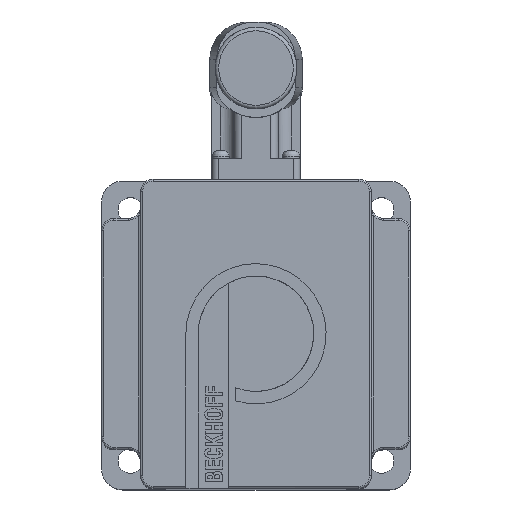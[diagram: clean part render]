
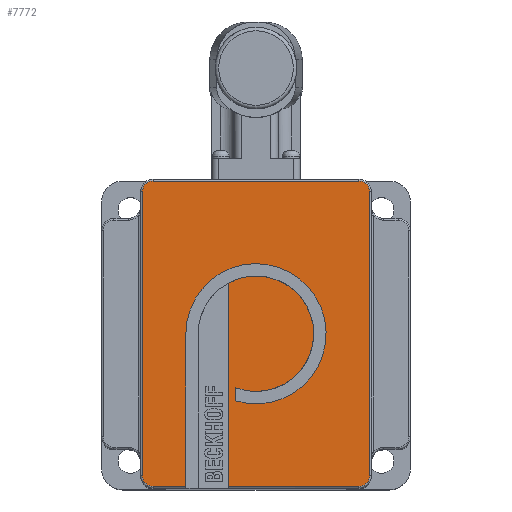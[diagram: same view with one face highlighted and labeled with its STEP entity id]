
A CAD part, top view. The second image highlights one B-rep face of the part: STEP entity #7772.
In plain terms, the highlighted planar face has unit normal (0, 0, 1).
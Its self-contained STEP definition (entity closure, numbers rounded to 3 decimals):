
#569=FACE_OUTER_BOUND('',#1005,.T.);
#1005=EDGE_LOOP('',(#5801,#5802,#5803,#5804,#5805,#5806,#5807,#5808,#5809,
#5810,#5811,#5812,#5813,#5814));
#1585=LINE('',#12348,#2274);
#1592=LINE('',#12366,#2281);
#1594=LINE('',#12374,#2283);
#1596=LINE('',#12380,#2285);
#1621=LINE('',#12711,#2310);
#1624=LINE('',#12726,#2313);
#1626=LINE('',#12737,#2315);
#1628=LINE('',#12746,#2317);
#2274=VECTOR('',#9489,10.);
#2281=VECTOR('',#9504,10.);
#2283=VECTOR('',#9514,10.);
#2285=VECTOR('',#9522,10.);
#2310=VECTOR('',#9657,10.);
#2313=VECTOR('',#9674,10.);
#2315=VECTOR('',#9688,10.);
#2317=VECTOR('',#9700,10.);
#2697=CIRCLE('',#8251,16.25);
#2698=CIRCLE('',#8254,19.75);
#2736=CIRCLE('',#8315,3.);
#2740=CIRCLE('',#8321,3.);
#2744=CIRCLE('',#8327,3.);
#2746=CIRCLE('',#8331,3.);
#3276=VERTEX_POINT('',#12345);
#3277=VERTEX_POINT('',#12347);
#3283=VERTEX_POINT('',#12363);
#3284=VERTEX_POINT('',#12365);
#3285=VERTEX_POINT('',#12369);
#3286=VERTEX_POINT('',#12373);
#3287=VERTEX_POINT('',#12379);
#3329=VERTEX_POINT('',#12708);
#3330=VERTEX_POINT('',#12710);
#3332=VERTEX_POINT('',#12716);
#3334=VERTEX_POINT('',#12722);
#3336=VERTEX_POINT('',#12728);
#3337=VERTEX_POINT('',#12733);
#3339=VERTEX_POINT('',#12739);
#4133=EDGE_CURVE('',#3277,#3276,#1585,.T.);
#4142=EDGE_CURVE('',#3284,#3283,#1592,.T.);
#4144=EDGE_CURVE('',#3285,#3277,#2697,.T.);
#4146=EDGE_CURVE('',#3286,#3285,#1594,.T.);
#4148=EDGE_CURVE('',#3283,#3286,#2698,.T.);
#4149=EDGE_CURVE('',#3284,#3287,#1596,.T.);
#4216=EDGE_CURVE('',#3329,#3330,#1621,.T.);
#4221=EDGE_CURVE('',#3330,#3332,#2736,.T.);
#4224=EDGE_CURVE('',#3332,#3334,#1624,.T.);
#4227=EDGE_CURVE('',#3334,#3336,#2740,.T.);
#4230=EDGE_CURVE('',#3336,#3337,#1626,.T.);
#4233=EDGE_CURVE('',#3337,#3339,#2744,.T.);
#4235=EDGE_CURVE('',#3339,#3276,#1628,.T.);
#4237=EDGE_CURVE('',#3287,#3329,#2746,.T.);
#5801=ORIENTED_EDGE('',*,*,#4133,.T.);
#5802=ORIENTED_EDGE('',*,*,#4235,.F.);
#5803=ORIENTED_EDGE('',*,*,#4233,.F.);
#5804=ORIENTED_EDGE('',*,*,#4230,.F.);
#5805=ORIENTED_EDGE('',*,*,#4227,.F.);
#5806=ORIENTED_EDGE('',*,*,#4224,.F.);
#5807=ORIENTED_EDGE('',*,*,#4221,.F.);
#5808=ORIENTED_EDGE('',*,*,#4216,.F.);
#5809=ORIENTED_EDGE('',*,*,#4237,.F.);
#5810=ORIENTED_EDGE('',*,*,#4149,.F.);
#5811=ORIENTED_EDGE('',*,*,#4142,.T.);
#5812=ORIENTED_EDGE('',*,*,#4148,.T.);
#5813=ORIENTED_EDGE('',*,*,#4146,.T.);
#5814=ORIENTED_EDGE('',*,*,#4144,.T.);
#7109=PLANE('',#8336);
#7772=ADVANCED_FACE('',(#569),#7109,.T.);
#8251=AXIS2_PLACEMENT_3D('',#12370,#9509,#9510);
#8254=AXIS2_PLACEMENT_3D('',#12377,#9518,#9519);
#8315=AXIS2_PLACEMENT_3D('',#12720,#9667,#9668);
#8321=AXIS2_PLACEMENT_3D('',#12731,#9681,#9682);
#8327=AXIS2_PLACEMENT_3D('',#12743,#9695,#9696);
#8331=AXIS2_PLACEMENT_3D('',#12749,#9705,#9706);
#8336=AXIS2_PLACEMENT_3D('',#12760,#9720,#9721);
#9489=DIRECTION('',(0.,-1.,0.));
#9504=DIRECTION('',(0.,1.,0.));
#9509=DIRECTION('center_axis',(0.,0.,
1.));
#9510=DIRECTION('ref_axis',(0.354,0.935,0.));
#9514=DIRECTION('',(0.,1.,0.));
#9518=DIRECTION('center_axis',(0.,0.,
-1.));
#9519=DIRECTION('ref_axis',(-0.291,-0.957,0.));
#9522=DIRECTION('',(-1.,0.,0.));
#9657=DIRECTION('',(0.,1.,0.));
#9667=DIRECTION('center_axis',(0.,0.,
-1.));
#9668=DIRECTION('ref_axis',(-0.707,0.707,0.));
#9674=DIRECTION('',(1.,0.,0.));
#9681=DIRECTION('center_axis',(0.,0.,
-1.));
#9682=DIRECTION('ref_axis',(0.707,0.707,0.));
#9688=DIRECTION('',(0.,-1.,0.));
#9695=DIRECTION('center_axis',(0.,0.,
-1.));
#9696=DIRECTION('ref_axis',(0.707,-0.707,0.));
#9700=DIRECTION('',(-1.,0.,0.));
#9705=DIRECTION('center_axis',(0.,0.,
-1.));
#9706=DIRECTION('ref_axis',(-0.707,-0.707,0.));
#9720=DIRECTION('center_axis',(0.,0.,
1.));
#9721=DIRECTION('ref_axis',(1.,0.,0.));
#12345=CARTESIAN_POINT('',(-7.75,-43.,277.5));
#12347=CARTESIAN_POINT('',(-7.75,14.283,277.5));
#12348=CARTESIAN_POINT('',(-7.75,-22.905,277.5));
#12363=CARTESIAN_POINT('',(-19.75,0.,277.5));
#12365=CARTESIAN_POINT('',(-19.75,-43.,277.5));
#12366=CARTESIAN_POINT('',(-19.75,0.,277.5));
#12369=CARTESIAN_POINT('',(-5.75,-15.199,277.5));
#12370=CARTESIAN_POINT('Origin',(0.,0.,
277.5));
#12373=CARTESIAN_POINT('',(-5.75,-18.894,277.5));
#12374=CARTESIAN_POINT('',(-5.75,-7.599,277.5));
#12377=CARTESIAN_POINT('Origin',(0.,0.,
277.5));
#12379=CARTESIAN_POINT('',(-29.,-43.,277.5));
#12380=CARTESIAN_POINT('',(16.25,-43.,277.5));
#12708=CARTESIAN_POINT('',(-32.,-40.,277.5));
#12710=CARTESIAN_POINT('',(-32.,40.,277.5));
#12711=CARTESIAN_POINT('',(-32.,18.,277.5));
#12716=CARTESIAN_POINT('',(-29.,43.,277.5));
#12720=CARTESIAN_POINT('Origin',(-29.,40.,277.5));
#12722=CARTESIAN_POINT('',(29.,43.,277.5));
#12726=CARTESIAN_POINT('',(-16.25,43.,277.5));
#12728=CARTESIAN_POINT('',(32.,40.,277.5));
#12731=CARTESIAN_POINT('Origin',(29.,40.,277.5));
#12733=CARTESIAN_POINT('',(32.,-40.,277.5));
#12737=CARTESIAN_POINT('',(32.,21.75,277.5));
#12739=CARTESIAN_POINT('',(29.,-43.,277.5));
#12743=CARTESIAN_POINT('Origin',(29.,-40.,277.5));
#12746=CARTESIAN_POINT('',(16.25,-43.,277.5));
#12749=CARTESIAN_POINT('Origin',(-29.,-40.,277.5));
#12760=CARTESIAN_POINT('Origin',(0.,0.,
277.5));
